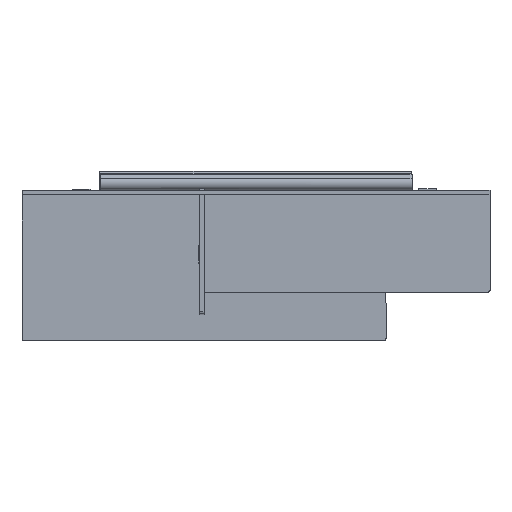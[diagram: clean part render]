
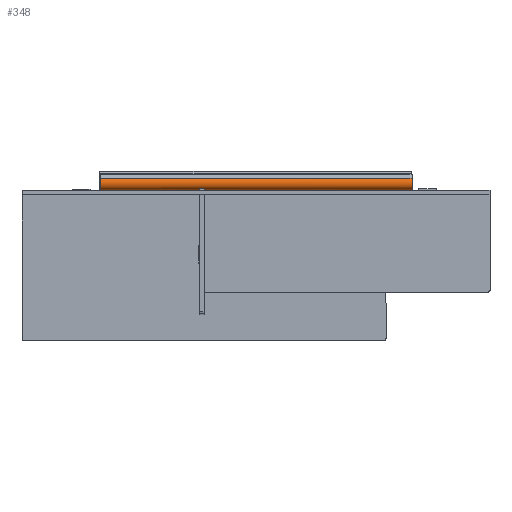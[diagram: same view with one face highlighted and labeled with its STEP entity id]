
A CAD part, top view. The second image highlights one B-rep face of the part: STEP entity #348.
In plain terms, the highlighted cylindrical face has radius 6.594 mm (diameter 13.189 mm), a partial arc.
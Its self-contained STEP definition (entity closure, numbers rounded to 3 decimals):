
#100=B_SPLINE_CURVE_WITH_KNOTS('',1,(#4027,#4028),.UNSPECIFIED.,.F.,.F.,
(2,2),(0.,300.),.UNSPECIFIED.);
#103=B_SPLINE_CURVE_WITH_KNOTS('',1,(#4033,#4034),.UNSPECIFIED.,.F.,.F.,
(2,2),(0.,300.),.UNSPECIFIED.);
#348=ADVANCED_FACE('',(#508),#2644,.T.);
#508=FACE_OUTER_BOUND('',#676,.T.);
#676=EDGE_LOOP('',(#1222,#1223,#1224,#1225));
#1222=ORIENTED_EDGE('',*,*,#1899,.T.);
#1223=ORIENTED_EDGE('',*,*,#1890,.F.);
#1224=ORIENTED_EDGE('',*,*,#1900,.T.);
#1225=ORIENTED_EDGE('',*,*,#1893,.T.);
#1890=EDGE_CURVE('',#2492,#2493,#100,.T.);
#1893=EDGE_CURVE('',#2495,#2494,#103,.T.);
#1899=EDGE_CURVE('',#2494,#2493,#2275,.T.);
#1900=EDGE_CURVE('',#2492,#2495,#2276,.T.);
#2275=(
BOUNDED_CURVE()
B_SPLINE_CURVE(2,(#4045,#4046,#4047,#4048,#4049),.UNSPECIFIED.,.F.,.F.)
B_SPLINE_CURVE_WITH_KNOTS((3,2,3),(-17.925,-8.962,
0.),.UNSPECIFIED.)
CURVE()
GEOMETRIC_REPRESENTATION_ITEM()
RATIONAL_B_SPLINE_CURVE((1.,0.827,1.,0.827,1.))
REPRESENTATION_ITEM('')
);
#2276=(
BOUNDED_CURVE()
B_SPLINE_CURVE(2,(#4050,#4051,#4052,#4053,#4054),.UNSPECIFIED.,.F.,.F.)
B_SPLINE_CURVE_WITH_KNOTS((3,2,3),(-17.925,-8.962,
0.),.UNSPECIFIED.)
CURVE()
GEOMETRIC_REPRESENTATION_ITEM()
RATIONAL_B_SPLINE_CURVE((1.,0.827,1.,0.827,1.))
REPRESENTATION_ITEM('')
);
#2492=VERTEX_POINT('',#3917);
#2493=VERTEX_POINT('',#3918);
#2494=VERTEX_POINT('',#3919);
#2495=VERTEX_POINT('',#3920);
#2644=CYLINDRICAL_SURFACE('',#2966,6.594);
#2966=AXIS2_PLACEMENT_3D('',#3878,#3129,$);
#3129=DIRECTION('',(1.,0.,0.));
#3878=CARTESIAN_POINT('',(-8.958,-10.314,98.901));
#3917=CARTESIAN_POINT('',(141.042,-16.909,98.901));
#3918=CARTESIAN_POINT('',(-158.958,-16.909,98.901));
#3919=CARTESIAN_POINT('',(-158.958,-5.508,103.416));
#3920=CARTESIAN_POINT('',(141.042,-5.508,103.416));
#4027=CARTESIAN_POINT('',(141.042,-16.909,98.901));
#4028=CARTESIAN_POINT('',(-158.958,-16.909,98.901));
#4033=CARTESIAN_POINT('',(141.042,-5.508,103.416));
#4034=CARTESIAN_POINT('',(-158.958,-5.508,103.416));
#4045=CARTESIAN_POINT('',(-158.958,-5.508,103.416));
#4046=CARTESIAN_POINT('',(-158.958,-8.576,106.682));
#4047=CARTESIAN_POINT('',(-158.958,-12.742,105.032));
#4048=CARTESIAN_POINT('',(-158.958,-16.909,103.382));
#4049=CARTESIAN_POINT('',(-158.958,-16.909,98.901));
#4050=CARTESIAN_POINT('',(141.042,-16.909,98.901));
#4051=CARTESIAN_POINT('',(141.042,-16.909,103.382));
#4052=CARTESIAN_POINT('',(141.042,-12.742,105.032));
#4053=CARTESIAN_POINT('',(141.042,-8.576,106.682));
#4054=CARTESIAN_POINT('',(141.042,-5.508,103.416));
